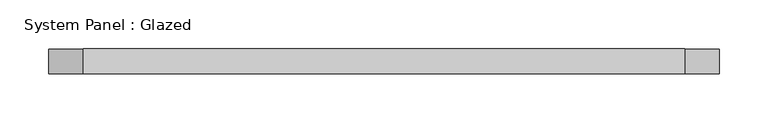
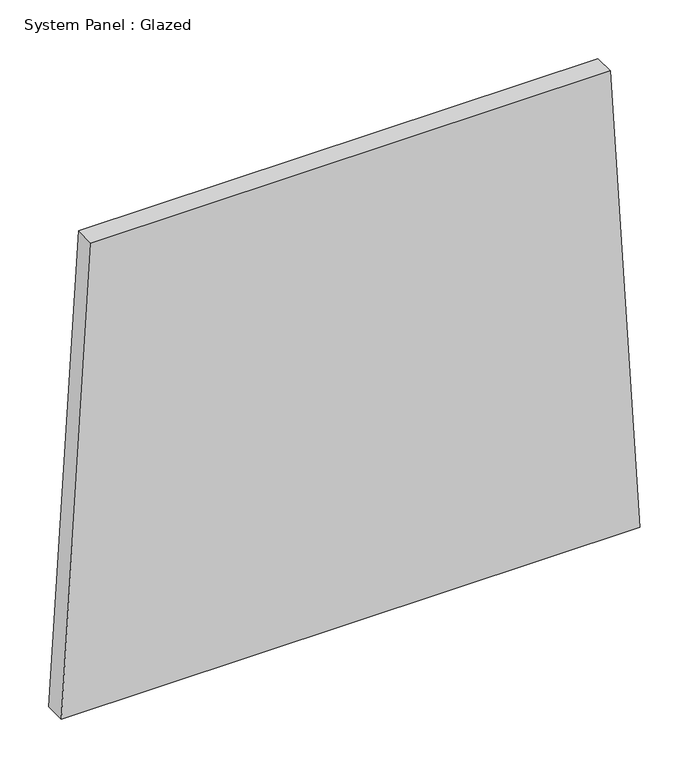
"""IFC4 building model written with IfcOpenShell, lengths in millimetres: plate geometry, System Panel : Glazed."""

from ifc_helpers import new_model, si_unit, frame, origin, place, context, project, spatial, polyline, outline, extrude, source, transform, mapped, element, save


def system_panel_glazed_4f662df8(model_context):
    return source(origin(), model_context, "Body", "SweptSolid", [
        extrude(outline(polyline([(0.0, -342.4789208), (0.0, 342.4789208), (583.0930436, 307.2914763), (583.0930436, -307.2914763), (0.0, -342.4789208)])), frame((0.0, 19.05, 0.0), z_axis=(0.0, 1.0, 0.0), x_axis=(0.0, 0.0, 1.0)), (0.0, 0.0, 1.0), 25.4),
    ])


if __name__ == "__main__":
    model = new_model("IFC4")
    model_context = context("Model", 3, world=origin())
    ifc_project = project(units=[si_unit("LENGTHUNIT", "METRE", prefix="MILLI")], contexts=[model_context])
    site = spatial("IfcSite", under=ifc_project)
    building = spatial("IfcBuilding", under=site)
    placement = place(None, origin())
    system_panel_glazed_shape = system_panel_glazed_4f662df8(model_context)
    element("IfcPlate", 1, ObjectType="System Panel : Glazed", at=placement, inside=building, context=model_context, shape_type="MappedRepresentation", body=[
        mapped(system_panel_glazed_shape, transform((0.0, 0.0, 0.0), x_axis=(1.0, 0.0, 0.0), y_axis=(0.0, 1.0, 0.0), z_axis=(0.0, 0.0, 1.0))),
    ])
    save(model, "model.ifc")
